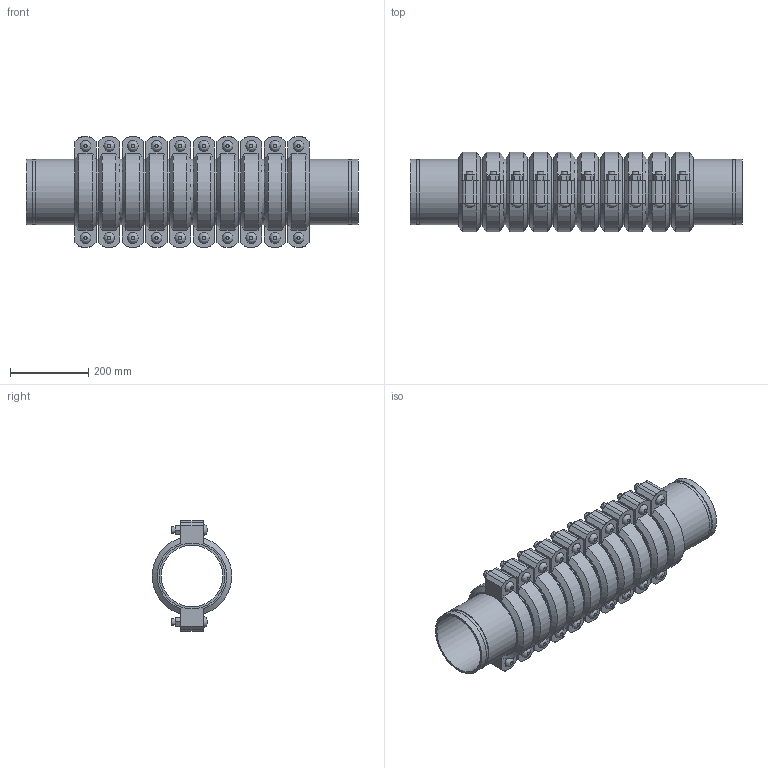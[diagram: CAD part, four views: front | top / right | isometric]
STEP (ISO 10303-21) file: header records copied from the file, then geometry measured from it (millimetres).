
FILE_DESCRIPTION(/* description */ ('VIC EXPANSION JOINT 10 COUPLINGS COMPRESSED STYLE 155 (OGS)','CAx-IF Rec.Pracs.---Representation and Presentation of Product Manufacturing Information (PMI)---4.0---2014-10-13'),/* implementation_level */ '2;1');
FILE_NAME(/* name */ 'C:\Users\kkamble\AppData\Roaming\Autodesk\ApplicationPlugins\Victaulic.Temp\A539\Victaulic_IPS_Expansion Joint_Compressed_10 Couplings_Style 155 (OGS)_6 (150).stp',/* time_stamp */ '2021-06-27T00:17:00+02:00',/* author */ ('kkamble'),/* organization */ ('Victaulic'),/* preprocessor_version */ 'ST-DEVELOPER v17.2',/* originating_system */ 'Autodesk Inventor 2019',/* authorisation */ '');
FILE_SCHEMA (('AP242_MANAGED_MODEL_BASED_3D_ENGINEERING_MIM_LF { 1 0 10303 442 1 1 4 }'));
Length unit declared in the file: inch
Products named in the file (4): 155-06.0; Nipple-06.0; Nipple-06.0_1; 075_10_Coup-06.0
Assembly tree (21 placements, depth 2):
  155-06.0
    Nipple-06.0  x2
    Nipple-06.0_1  x9
    075_10_Coup-06.0  x10
Bounding box: 848.11 x 202.46 x 281.18 mm (x, y, z)
Volume: 9666233.8 mm3; surface area: 2104345.4 mm2
Topology: 21 solids, 41 shells, 702 faces, 1660 edges, 1164 vertices
Faces by surface type: plane 426, cylinder 216, cone 40, bspline 20
Full cylindrical faces by diameter (mm): 15.875 x40, 17.424 x20, 157.15 x11, 161.925 x10, 163.957 x22, 168.275 x53
Entity records: 2890 total; most frequent: CARTESIAN_POINT 505, DIRECTION 485, ORIENTED_EDGE 386, AXIS2_PLACEMENT_3D 196, EDGE_CURVE 193, VERTEX_POINT 138, EDGE_LOOP 107, LINE 93
